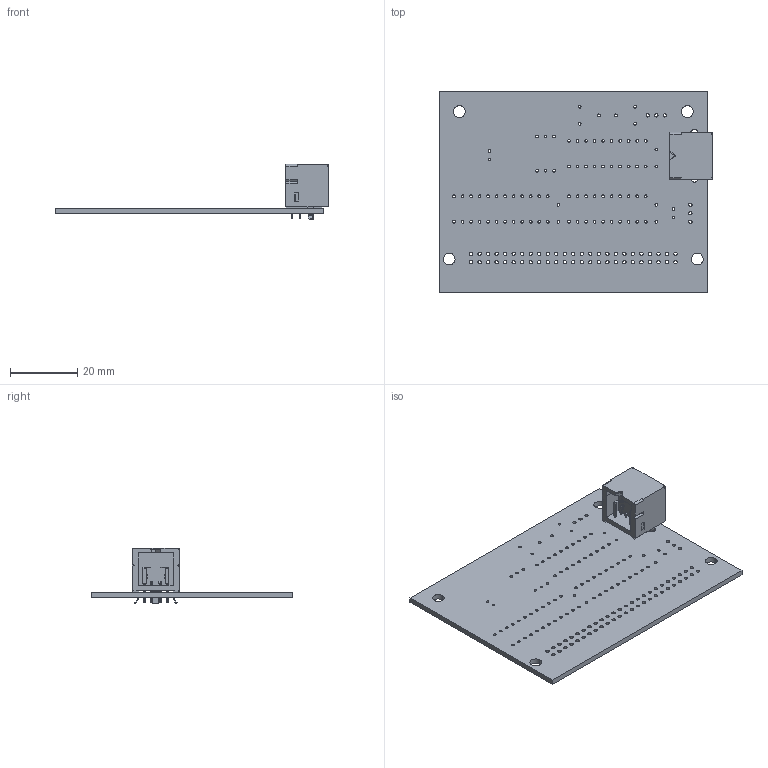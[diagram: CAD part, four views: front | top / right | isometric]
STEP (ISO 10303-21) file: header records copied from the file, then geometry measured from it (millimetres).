
FILE_DESCRIPTION(('KiCad electronic assembly'),'2;1');
FILE_NAME('SF2Maus-E6.step','2024-04-23T08:49:22',('Pcbnew'),('Kicad'), 'Open CASCADE STEP processor 7.7','KiCad to STEP converter','Unknown' );
FILE_SCHEMA(('AUTOMOTIVE_DESIGN { 1 0 10303 214 1 1 1 1 }'));
Length unit declared in the file: millimetre
Products named in the file (4): SF2Maus-E6 1; c-5749180-1-a-3d; C-5749180-1; SF2Maus-E6_PCB
Assembly tree (3 placements, depth 3):
  SF2Maus-E6 1
    c-5749180-1-a-3d
      C-5749180-1
    SF2Maus-E6_PCB
Bounding box: 81.62 x 60 x 16.53 mm (x, y, z)
Volume: 8999.5 mm3; surface area: 12588.3 mm2
Topology: 2 solids, 2 shells, 716 faces, 2042 edges, 1340 vertices
Faces by surface type: cylinder 308, plane 298, bspline 60, cone 26, torus 24
Full cylindrical faces by diameter (mm): 0.8 x66, 0.813 x20, 0.9 x6, 1 x56, 2.2 x3
Entity records: 26193 total; most frequent: CARTESIAN_POINT 6455, ORIENTED_EDGE 4084, DIRECTION 3978, EDGE_CURVE 2042, AXIS2_PLACEMENT_3D 1345, VERTEX_POINT 1340, LINE 1288, VECTOR 1288
